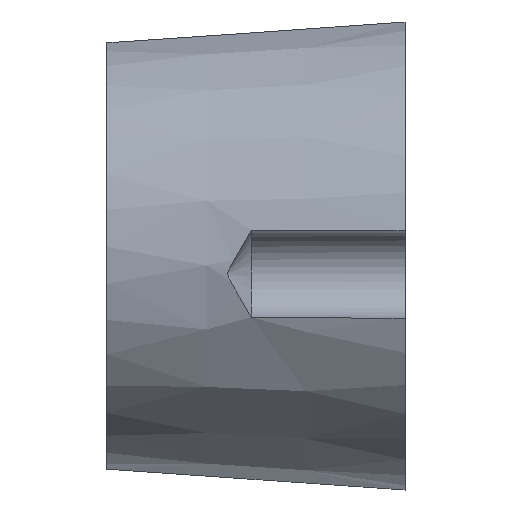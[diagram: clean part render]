
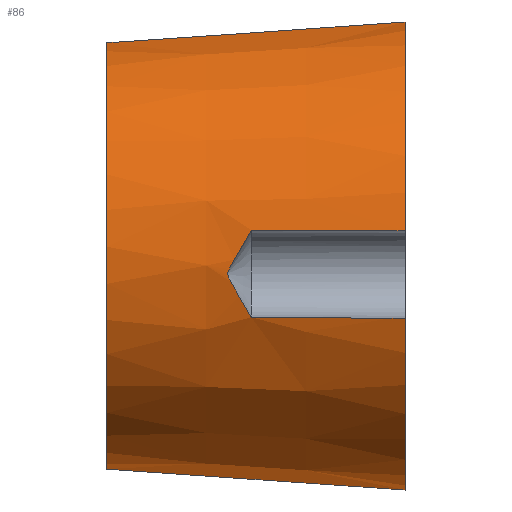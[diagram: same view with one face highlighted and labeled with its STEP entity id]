
A CAD part, top view. The second image highlights one B-rep face of the part: STEP entity #86.
In plain terms, the highlighted conical face has half-angle 4 degrees and reference radius 16.82 mm.
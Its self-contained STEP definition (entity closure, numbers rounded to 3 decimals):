
#86 = ADVANCED_FACE( '', ( #120 ), #121, .T. );
#120 = FACE_OUTER_BOUND( '', #164, .T. );
#121 = CONICAL_SURFACE( '', #165, 16.82, 0.07 );
#164 = EDGE_LOOP( '', ( #265, #266, #267, #268, #269, #270, #271, #272, #273, #274 ) );
#165 = AXIS2_PLACEMENT_3D( '', #275, #276, #277 );
#265 = ORIENTED_EDGE( '', *, *, #381, .T. );
#266 = ORIENTED_EDGE( '', *, *, #386, .T. );
#267 = ORIENTED_EDGE( '', *, *, #403, .F. );
#268 = ORIENTED_EDGE( '', *, *, #384, .T. );
#269 = ORIENTED_EDGE( '', *, *, #405, .T. );
#270 = ORIENTED_EDGE( '', *, *, #406, .T. );
#271 = ORIENTED_EDGE( '', *, *, #407, .T. );
#272 = ORIENTED_EDGE( '', *, *, #408, .F. );
#273 = ORIENTED_EDGE( '', *, *, #409, .T. );
#274 = ORIENTED_EDGE( '', *, *, #410, .T. );
#275 = CARTESIAN_POINT( '', ( -11.15, 0., 0. ) );
#276 = DIRECTION( '', ( 1., 0., 0. ) );
#277 = DIRECTION( '', ( 0., 1., 0. ) );
#381 = EDGE_CURVE( '', #451, #449, #452, .T. );
#384 = EDGE_CURVE( '', #457, #454, #458, .T. );
#386 = EDGE_CURVE( '', #449, #459, #461, .T. );
#403 = EDGE_CURVE( '', #457, #459, #488, .T. );
#405 = EDGE_CURVE( '', #454, #489, #491, .T. );
#406 = EDGE_CURVE( '', #489, #492, #493, .T. );
#407 = EDGE_CURVE( '', #492, #494, #495, .T. );
#408 = EDGE_CURVE( '', #496, #494, #497, .T. );
#409 = EDGE_CURVE( '', #496, #498, #499, .T. );
#410 = EDGE_CURVE( '', #498, #451, #500, .T. );
#449 = VERTEX_POINT( '', #561 );
#451 = VERTEX_POINT( '', #564 );
#452 = B_SPLINE_CURVE_WITH_KNOTS( '', 3, ( #565, #566, #567, #568, #569, #570 ), .UNSPECIFIED., .F., .F., ( 4, 2, 4 ), ( 0.988, 6.344, 11.701 ), .UNSPECIFIED. );
#454 = VERTEX_POINT( '', #572 );
#457 = VERTEX_POINT( '', #576 );
#458 = B_SPLINE_CURVE_WITH_KNOTS( '', 3, ( #577, #578, #579, #580, #581, #582 ), .UNSPECIFIED., .F., .F., ( 4, 2, 4 ), ( 0.988, 6.344, 11.7 ), .UNSPECIFIED. );
#459 = VERTEX_POINT( '', #583 );
#461 = B_SPLINE_CURVE_WITH_KNOTS( '', 3, ( #585, #586, #587, #588, #589, #590 ), .UNSPECIFIED., .F., .F., ( 4, 2, 4 ), ( 0.988, 6.344, 11.701 ), .UNSPECIFIED. );
#488 = B_SPLINE_CURVE_WITH_KNOTS( '', 3, ( #673, #674, #675, #676, #677, #678, #679, #680, #681, #682, #683, #684, #685, #686, #687, #688, #689, #690, #691, #692, #693, #694, #695, #696, #697, #698 ), .UNSPECIFIED., .F., .F., ( 4, 2, 2, 2, 2, 2, 2, 2, 2, 2, 2, 2, 4 ), ( 1.866, 2.211, 3.894, 4.736, 5.157, 5.367, 5.578, 5.788, 5.999, 6.419, 7.261, 8.945, 9.289 ), .UNSPECIFIED. );
#489 = VERTEX_POINT( '', #699 );
#491 = B_SPLINE_CURVE_WITH_KNOTS( '', 3, ( #701, #702, #703, #704, #705, #706 ), .UNSPECIFIED., .F., .F., ( 4, 2, 4 ), ( 0.988, 6.344, 11.7 ), .UNSPECIFIED. );
#492 = VERTEX_POINT( '', #707 );
#493 = CIRCLE( '', #708, 17.6 );
#494 = VERTEX_POINT( '', #709 );
#495 = B_SPLINE_CURVE_WITH_KNOTS( '', 3, ( #710, #711, #712, #713, #714, #715, #716, #717, #718, #719 ), .UNSPECIFIED., .F., .F., ( 4, 2, 2, 2, 4 ), ( 0.989, 6.713, 13.426, 18.133, 21.856 ), .UNSPECIFIED. );
#496 = VERTEX_POINT( '', #720 );
#497 = CIRCLE( '', #721, 16.041 );
#498 = VERTEX_POINT( '', #722 );
#499 = ( B_SPLINE_CURVE( 2, ( #724, #725, #726 ), .UNSPECIFIED., .F., .F. )B_SPLINE_CURVE_WITH_KNOTS( ( 3, 3 ), ( 0., 22.355 ), .UNSPECIFIED. )RATIONAL_B_SPLINE_CURVE( ( 1., 1.001, 1. ) )BOUNDED_CURVE(  )REPRESENTATION_ITEM( '' )GEOMETRIC_REPRESENTATION_ITEM(  )CURVE(  ) );
#500 = CIRCLE( '', #733, 17.6 );
#561 = CARTESIAN_POINT( '', ( -1.05, -4.77, 16.865 ) );
#564 = CARTESIAN_POINT( '', ( 0., -4.769, 16.942 ) );
#565 = CARTESIAN_POINT( '', ( 0., -4.769, 16.942 ) );
#566 = CARTESIAN_POINT( '', ( -1.832, -4.772, 16.808 ) );
#567 = CARTESIAN_POINT( '', ( -3.791, -4.767, 16.667 ) );
#568 = CARTESIAN_POINT( '', ( -7.709, -4.738, 16.39 ) );
#569 = CARTESIAN_POINT( '', ( -9.668, -4.715, 16.254 ) );
#570 = CARTESIAN_POINT( '', ( -11.5, -4.687, 16.129 ) );
#572 = CARTESIAN_POINT( '', ( -9.095, 1.83, 16.865 ) );
#576 = CARTESIAN_POINT( '', ( -11.5, 1.826, 16.696 ) );
#577 = CARTESIAN_POINT( '', ( -11.5, 1.826, 16.696 ) );
#578 = CARTESIAN_POINT( '', ( -9.668, 1.832, 16.824 ) );
#579 = CARTESIAN_POINT( '', ( -7.709, 1.832, 16.962 ) );
#580 = CARTESIAN_POINT( '', ( -3.791, 1.812, 17.24 ) );
#581 = CARTESIAN_POINT( '', ( -1.832, 1.792, 17.38 ) );
#582 = CARTESIAN_POINT( '', ( 0., 1.766, 17.511 ) );
#583 = CARTESIAN_POINT( '', ( -11.5, -4.687, 16.129 ) );
#585 = CARTESIAN_POINT( '', ( 0., -4.769, 16.942 ) );
#586 = CARTESIAN_POINT( '', ( -1.832, -4.772, 16.808 ) );
#587 = CARTESIAN_POINT( '', ( -3.791, -4.767, 16.667 ) );
#588 = CARTESIAN_POINT( '', ( -7.709, -4.738, 16.39 ) );
#589 = CARTESIAN_POINT( '', ( -9.668, -4.715, 16.254 ) );
#590 = CARTESIAN_POINT( '', ( -11.5, -4.687, 16.129 ) );
#673 = CARTESIAN_POINT( '', ( -11.5, 1.826, 16.696 ) );
#674 = CARTESIAN_POINT( '', ( -11.56, 1.721, 16.703 ) );
#675 = CARTESIAN_POINT( '', ( -11.62, 1.619, 16.71 ) );
#676 = CARTESIAN_POINT( '', ( -11.958, 1.034, 16.739 ) );
#677 = CARTESIAN_POINT( '', ( -12.256, 0.518, 16.743 ) );
#678 = CARTESIAN_POINT( '', ( -12.688, -0.237, 16.713 ) );
#679 = CARTESIAN_POINT( '', ( -12.829, -0.483, 16.698 ) );
#680 = CARTESIAN_POINT( '', ( -13.026, -0.842, 16.668 ) );
#681 = CARTESIAN_POINT( '', ( -13.089, -0.959, 16.658 ) );
#682 = CARTESIAN_POINT( '', ( -13.173, -1.135, 16.64 ) );
#683 = CARTESIAN_POINT( '', ( -13.199, -1.193, 16.634 ) );
#684 = CARTESIAN_POINT( '', ( -13.241, -1.315, 16.622 ) );
#685 = CARTESIAN_POINT( '', ( -13.257, -1.378, 16.616 ) );
#686 = CARTESIAN_POINT( '', ( -13.257, -1.518, 16.604 ) );
#687 = CARTESIAN_POINT( '', ( -13.241, -1.58, 16.599 ) );
#688 = CARTESIAN_POINT( '', ( -13.199, -1.702, 16.59 ) );
#689 = CARTESIAN_POINT( '', ( -13.173, -1.761, 16.586 ) );
#690 = CARTESIAN_POINT( '', ( -13.089, -1.937, 16.572 ) );
#691 = CARTESIAN_POINT( '', ( -13.026, -2.054, 16.563 ) );
#692 = CARTESIAN_POINT( '', ( -12.829, -2.413, 16.529 ) );
#693 = CARTESIAN_POINT( '', ( -12.688, -2.658, 16.502 ) );
#694 = CARTESIAN_POINT( '', ( -12.256, -3.407, 16.4 ) );
#695 = CARTESIAN_POINT( '', ( -11.958, -3.915, 16.308 ) );
#696 = CARTESIAN_POINT( '', ( -11.62, -4.485, 16.177 ) );
#697 = CARTESIAN_POINT( '', ( -11.56, -4.585, 16.154 ) );
#698 = CARTESIAN_POINT( '', ( -11.5, -4.687, 16.129 ) );
#699 = CARTESIAN_POINT( '', ( 0., 1.766, 17.511 ) );
#701 = CARTESIAN_POINT( '', ( -11.5, 1.826, 16.696 ) );
#702 = CARTESIAN_POINT( '', ( -9.668, 1.832, 16.824 ) );
#703 = CARTESIAN_POINT( '', ( -7.709, 1.832, 16.962 ) );
#704 = CARTESIAN_POINT( '', ( -3.791, 1.812, 17.24 ) );
#705 = CARTESIAN_POINT( '', ( -1.832, 1.792, 17.38 ) );
#706 = CARTESIAN_POINT( '', ( 0., 1.766, 17.511 ) );
#707 = CARTESIAN_POINT( '', ( 0., 17.423, 2.488 ) );
#708 = AXIS2_PLACEMENT_3D( '', #832, #833, #834 );
#709 = CARTESIAN_POINT( '', ( -22.3, 15.868, 2.347 ) );
#710 = CARTESIAN_POINT( '', ( 0., 17.423, 2.488 ) );
#711 = CARTESIAN_POINT( '', ( -1.955, 17.281, 2.52 ) );
#712 = CARTESIAN_POINT( '', ( -4.048, 17.13, 2.541 ) );
#713 = CARTESIAN_POINT( '', ( -8.596, 16.806, 2.555 ) );
#714 = CARTESIAN_POINT( '', ( -11.052, 16.634, 2.544 ) );
#715 = CARTESIAN_POINT( '', ( -14.849, 16.371, 2.504 ) );
#716 = CARTESIAN_POINT( '', ( -16.571, 16.253, 2.479 ) );
#717 = CARTESIAN_POINT( '', ( -19.654, 16.045, 2.416 ) );
#718 = CARTESIAN_POINT( '', ( -21.016, 15.953, 2.383 ) );
#719 = CARTESIAN_POINT( '', ( -22.3, 15.868, 2.347 ) );
#720 = CARTESIAN_POINT( '', ( -22.3, -16.023, 0.75 ) );
#721 = AXIS2_PLACEMENT_3D( '', #835, #836, #837 );
#722 = CARTESIAN_POINT( '', ( 0., -17.584, 0.75 ) );
#724 = CARTESIAN_POINT( '', ( -22.3, -16.023, 0.75 ) );
#725 = CARTESIAN_POINT( '', ( -11.668, -16.767, 0.75 ) );
#726 = CARTESIAN_POINT( '', ( 0., -17.584, 0.75 ) );
#733 = AXIS2_PLACEMENT_3D( '', #838, #839, #840 );
#832 = CARTESIAN_POINT( '', ( 0., 0., 0. ) );
#833 = DIRECTION( '', ( -1., 0., 0. ) );
#834 = DIRECTION( '', ( 0., 1., 0. ) );
#835 = CARTESIAN_POINT( '', ( -22.3, 0., 0. ) );
#836 = DIRECTION( '', ( -1., 0., 0. ) );
#837 = DIRECTION( '', ( 0., 1., 0. ) );
#838 = CARTESIAN_POINT( '', ( 0., 0., 0. ) );
#839 = DIRECTION( '', ( -1., 0., 0. ) );
#840 = DIRECTION( '', ( 0., 1., 0. ) );
